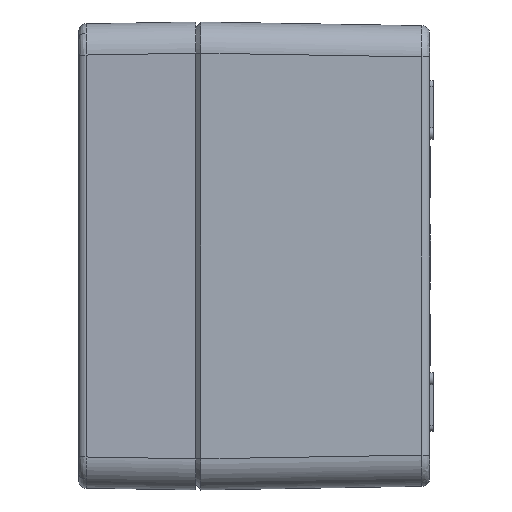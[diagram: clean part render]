
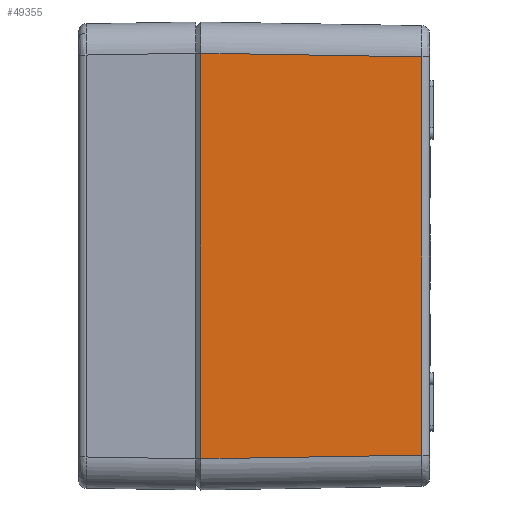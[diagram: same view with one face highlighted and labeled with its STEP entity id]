
A CAD part, left-side view. The second image highlights one B-rep face of the part: STEP entity #49355.
In plain terms, the highlighted planar face has unit normal (-1, -0.017, 0).
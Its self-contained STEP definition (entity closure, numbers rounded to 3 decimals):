
#830 = CARTESIAN_POINT ( 'NONE',  ( -61.002, 58.623, 51.897 ) ) ;
#1496 = CARTESIAN_POINT ( 'NONE',  ( -60.058, 1.967, -51.059 ) ) ;
#2297 = DIRECTION ( 'NONE',  ( 0.017, -1., 0. ) ) ;
#3096 = VECTOR ( 'NONE', #11367, 1000. ) ;
#4047 = CARTESIAN_POINT ( 'NONE',  ( -61.002, 58.623, -51.971 ) ) ;
#5403 = EDGE_CURVE ( 'NONE', #46595, #44012, #19120, .T. ) ;
#6288 = FACE_OUTER_BOUND ( 'NONE', #9644, .T. ) ;
#8032 = CARTESIAN_POINT ( 'NONE',  ( -61.002, 58.623, 52.003 ) ) ;
#8566 = CARTESIAN_POINT ( 'NONE',  ( -60.058, 1.967, 51.059 ) ) ;
#9644 = EDGE_LOOP ( 'NONE', ( #34935, #21363, #50394, #55142, #33540, #10635 ) ) ;
#10282 = CARTESIAN_POINT ( 'NONE',  ( -61.002, 58.623, -52.003 ) ) ;
#10635 = ORIENTED_EDGE ( 'NONE', *, *, #5403, .T. ) ;
#11367 = DIRECTION ( 'NONE',  ( 0., 0., -1. ) ) ;
#11647 = CARTESIAN_POINT ( 'NONE',  ( -61.002, 58.623, 52.003 ) ) ;
#12696 = EDGE_CURVE ( 'NONE', #42740, #41600, #15895, .T. ) ;
#15378 = PLANE ( 'NONE',  #39310 ) ;
#15895 = LINE ( 'NONE', #24688, #3096 ) ;
#16727 = VECTOR ( 'NONE', #29301, 1000. ) ;
#18576 = DIRECTION ( 'NONE',  ( 0., 0., -1. ) ) ;
#19120 = B_SPLINE_CURVE_WITH_KNOTS ( 'NONE', 3,
 ( #11647, #45413, #20170, #50238 ),
 .UNSPECIFIED., .F., .F.,
 ( 4, 4 ),
 ( 0., 0. ),
 .UNSPECIFIED. ) ;
#20170 = CARTESIAN_POINT ( 'NONE',  ( -61.002, 58.623, 51.932 ) ) ;
#21363 = ORIENTED_EDGE ( 'NONE', *, *, #28712, .T. ) ;
#21723 = CARTESIAN_POINT ( 'NONE',  ( -61.002, 58.623, -54.057 ) ) ;
#23013 = VECTOR ( 'NONE', #18576, 1000. ) ;
#24688 = CARTESIAN_POINT ( 'NONE',  ( -60.058, 1.967, -54.057 ) ) ;
#27314 = LINE ( 'NONE', #10282, #37480 ) ;
#28712 = EDGE_CURVE ( 'NONE', #39365, #44100, #35231, .T. ) ;
#29301 = DIRECTION ( 'NONE',  ( -0.017, 1., 0.017 ) ) ;
#29336 = CARTESIAN_POINT ( 'NONE',  ( -60.058, 1.967, 51.059 ) ) ;
#33540 = ORIENTED_EDGE ( 'NONE', *, *, #35746, .T. ) ;
#34935 = ORIENTED_EDGE ( 'NONE', *, *, #49053, .T. ) ;
#34969 = CARTESIAN_POINT ( 'NONE',  ( -61.002, 58.623, -51.907 ) ) ;
#35231 = B_SPLINE_CURVE_WITH_KNOTS ( 'NONE', 3,
 ( #34969, #39524, #4047, #48305 ),
 .UNSPECIFIED., .F., .F.,
 ( 4, 4 ),
 ( 0., 0. ),
 .UNSPECIFIED. ) ;
#35746 = EDGE_CURVE ( 'NONE', #42740, #46595, #42909, .T. ) ;
#37480 = VECTOR ( 'NONE', #44331, 1000. ) ;
#39310 = AXIS2_PLACEMENT_3D ( 'NONE', #53398, #53690, #2297 ) ;
#39365 = VERTEX_POINT ( 'NONE', #43869 ) ;
#39524 = CARTESIAN_POINT ( 'NONE',  ( -61.002, 58.623, -51.939 ) ) ;
#41600 = VERTEX_POINT ( 'NONE', #1496 ) ;
#42740 = VERTEX_POINT ( 'NONE', #29336 ) ;
#42909 = LINE ( 'NONE', #8566, #16727 ) ;
#43044 = EDGE_CURVE ( 'NONE', #44100, #41600, #27314, .T. ) ;
#43869 = CARTESIAN_POINT ( 'NONE',  ( -61.002, 58.623, -51.907 ) ) ;
#44012 = VERTEX_POINT ( 'NONE', #830 ) ;
#44100 = VERTEX_POINT ( 'NONE', #53349 ) ;
#44331 = DIRECTION ( 'NONE',  ( 0.017, -1., 0.017 ) ) ;
#45413 = CARTESIAN_POINT ( 'NONE',  ( -61.002, 58.623, 51.968 ) ) ;
#46595 = VERTEX_POINT ( 'NONE', #8032 ) ;
#48305 = CARTESIAN_POINT ( 'NONE',  ( -61.002, 58.623, -52.003 ) ) ;
#49053 = EDGE_CURVE ( 'NONE', #44012, #39365, #52921, .T. ) ;
#49355 = ADVANCED_FACE ( 'NONE', ( #6288 ), #15378, .T. ) ;
#50238 = CARTESIAN_POINT ( 'NONE',  ( -61.002, 58.623, 51.897 ) ) ;
#50394 = ORIENTED_EDGE ( 'NONE', *, *, #43044, .T. ) ;
#52921 = LINE ( 'NONE', #21723, #23013 ) ;
#53349 = CARTESIAN_POINT ( 'NONE',  ( -61.002, 58.623, -52.003 ) ) ;
#53398 = CARTESIAN_POINT ( 'NONE',  ( -60.005, -1.172, -54.057 ) ) ;
#53690 = DIRECTION ( 'NONE',  ( -1., -0.017, 0. ) ) ;
#55142 = ORIENTED_EDGE ( 'NONE', *, *, #12696, .F. ) ;
